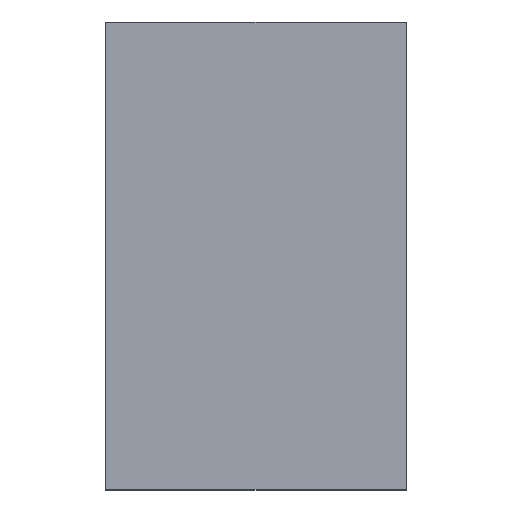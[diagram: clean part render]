
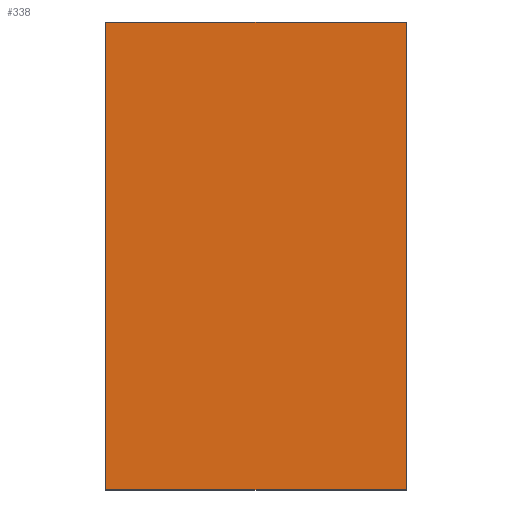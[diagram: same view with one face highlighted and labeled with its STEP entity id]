
A CAD part, top view. The second image highlights one B-rep face of the part: STEP entity #338.
In plain terms, the highlighted planar face has unit normal (0, 0, 1).
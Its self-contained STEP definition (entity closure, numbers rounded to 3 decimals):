
#21 = EDGE_CURVE('',#22,#24,#26,.T.);
#22 = VERTEX_POINT('',#23);
#23 = CARTESIAN_POINT('',(-36.5,84.,38.));
#24 = VERTEX_POINT('',#25);
#25 = CARTESIAN_POINT('',(-36.5,42.,38.));
#26 = SURFACE_CURVE('',#27,(#31,#43),.PCURVE_S1.);
#27 = LINE('',#28,#29);
#28 = CARTESIAN_POINT('',(-36.5,42.,38.));
#29 = VECTOR('',#30,1.);
#30 = DIRECTION('',(0.,-1.,0.));
#31 = PCURVE('',#32,#37);
#32 = PLANE('',#33);
#33 = AXIS2_PLACEMENT_3D('',#34,#35,#36);
#34 = CARTESIAN_POINT('',(-36.5,42.,35.));
#35 = DIRECTION('',(1.,0.,0.));
#36 = DIRECTION('',(0.,0.,1.));
#37 = DEFINITIONAL_REPRESENTATION('',(#38),#42);
#38 = LINE('',#39,#40);
#39 = CARTESIAN_POINT('',(3.,0.));
#40 = VECTOR('',#41,1.);
#41 = DIRECTION('',(0.,1.));
#42 = ( GEOMETRIC_REPRESENTATION_CONTEXT(2) 
PARAMETRIC_REPRESENTATION_CONTEXT() REPRESENTATION_CONTEXT('2D SPACE',''
  ) );
#43 = PCURVE('',#44,#49);
#44 = PLANE('',#45);
#45 = AXIS2_PLACEMENT_3D('',#46,#47,#48);
#46 = CARTESIAN_POINT('',(-36.5,42.,38.));
#47 = DIRECTION('',(0.,0.,1.));
#48 = DIRECTION('',(1.,0.,0.));
#49 = DEFINITIONAL_REPRESENTATION('',(#50),#54);
#50 = LINE('',#51,#52);
#51 = CARTESIAN_POINT('',(0.,0.));
#52 = VECTOR('',#53,1.);
#53 = DIRECTION('',(0.,-1.));
#54 = ( GEOMETRIC_REPRESENTATION_CONTEXT(2) 
PARAMETRIC_REPRESENTATION_CONTEXT() REPRESENTATION_CONTEXT('2D SPACE',''
  ) );
#72 = PLANE('',#73);
#73 = AXIS2_PLACEMENT_3D('',#74,#75,#76);
#74 = CARTESIAN_POINT('',(-36.5,84.,35.));
#75 = DIRECTION('',(0.,1.,0.));
#76 = DIRECTION('',(0.,0.,1.));
#126 = PLANE('',#127);
#127 = AXIS2_PLACEMENT_3D('',#128,#129,#130);
#128 = CARTESIAN_POINT('',(-36.5,42.,35.));
#129 = DIRECTION('',(0.,1.,0.));
#130 = DIRECTION('',(0.,0.,1.));
#144 = VERTEX_POINT('',#145);
#145 = CARTESIAN_POINT('',(-9.5,42.,38.));
#152 = PLANE('',#153);
#153 = AXIS2_PLACEMENT_3D('',#154,#155,#156);
#154 = CARTESIAN_POINT('',(-9.5,42.,35.));
#155 = DIRECTION('',(1.,0.,0.));
#156 = DIRECTION('',(0.,0.,1.));
#195 = VERTEX_POINT('',#196);
#196 = CARTESIAN_POINT('',(-9.5,84.,38.));
#217 = EDGE_CURVE('',#144,#195,#218,.T.);
#218 = SURFACE_CURVE('',#219,(#223,#230),.PCURVE_S1.);
#219 = LINE('',#220,#221);
#220 = CARTESIAN_POINT('',(-9.5,42.,38.));
#221 = VECTOR('',#222,1.);
#222 = DIRECTION('',(0.,1.,0.));
#223 = PCURVE('',#152,#224);
#224 = DEFINITIONAL_REPRESENTATION('',(#225),#229);
#225 = LINE('',#226,#227);
#226 = CARTESIAN_POINT('',(3.,0.));
#227 = VECTOR('',#228,1.);
#228 = DIRECTION('',(0.,-1.));
#229 = ( GEOMETRIC_REPRESENTATION_CONTEXT(2) 
PARAMETRIC_REPRESENTATION_CONTEXT() REPRESENTATION_CONTEXT('2D SPACE',''
  ) );
#230 = PCURVE('',#44,#231);
#231 = DEFINITIONAL_REPRESENTATION('',(#232),#236);
#232 = LINE('',#233,#234);
#233 = CARTESIAN_POINT('',(27.,0.));
#234 = VECTOR('',#235,1.);
#235 = DIRECTION('',(0.,1.));
#236 = ( GEOMETRIC_REPRESENTATION_CONTEXT(2) 
PARAMETRIC_REPRESENTATION_CONTEXT() REPRESENTATION_CONTEXT('2D SPACE',''
  ) );
#242 = EDGE_CURVE('',#24,#144,#243,.T.);
#243 = SURFACE_CURVE('',#244,(#248,#255),.PCURVE_S1.);
#244 = LINE('',#245,#246);
#245 = CARTESIAN_POINT('',(-36.5,42.,38.));
#246 = VECTOR('',#247,1.);
#247 = DIRECTION('',(1.,0.,0.));
#248 = PCURVE('',#126,#249);
#249 = DEFINITIONAL_REPRESENTATION('',(#250),#254);
#250 = LINE('',#251,#252);
#251 = CARTESIAN_POINT('',(3.,0.));
#252 = VECTOR('',#253,1.);
#253 = DIRECTION('',(0.,1.));
#254 = ( GEOMETRIC_REPRESENTATION_CONTEXT(2) 
PARAMETRIC_REPRESENTATION_CONTEXT() REPRESENTATION_CONTEXT('2D SPACE',''
  ) );
#255 = PCURVE('',#44,#256);
#256 = DEFINITIONAL_REPRESENTATION('',(#257),#261);
#257 = LINE('',#258,#259);
#258 = CARTESIAN_POINT('',(0.,0.));
#259 = VECTOR('',#260,1.);
#260 = DIRECTION('',(1.,0.));
#261 = ( GEOMETRIC_REPRESENTATION_CONTEXT(2) 
PARAMETRIC_REPRESENTATION_CONTEXT() REPRESENTATION_CONTEXT('2D SPACE',''
  ) );
#310 = EDGE_CURVE('',#22,#195,#311,.T.);
#311 = SURFACE_CURVE('',#312,(#316,#323),.PCURVE_S1.);
#312 = LINE('',#313,#314);
#313 = CARTESIAN_POINT('',(-36.5,84.,38.));
#314 = VECTOR('',#315,1.);
#315 = DIRECTION('',(1.,0.,0.));
#316 = PCURVE('',#72,#317);
#317 = DEFINITIONAL_REPRESENTATION('',(#318),#322);
#318 = LINE('',#319,#320);
#319 = CARTESIAN_POINT('',(3.,0.));
#320 = VECTOR('',#321,1.);
#321 = DIRECTION('',(0.,1.));
#322 = ( GEOMETRIC_REPRESENTATION_CONTEXT(2) 
PARAMETRIC_REPRESENTATION_CONTEXT() REPRESENTATION_CONTEXT('2D SPACE',''
  ) );
#323 = PCURVE('',#44,#324);
#324 = DEFINITIONAL_REPRESENTATION('',(#325),#329);
#325 = LINE('',#326,#327);
#326 = CARTESIAN_POINT('',(0.,42.));
#327 = VECTOR('',#328,1.);
#328 = DIRECTION('',(1.,0.));
#329 = ( GEOMETRIC_REPRESENTATION_CONTEXT(2) 
PARAMETRIC_REPRESENTATION_CONTEXT() REPRESENTATION_CONTEXT('2D SPACE',''
  ) );
#338 = ADVANCED_FACE('',(#339),#44,.T.);
#339 = FACE_BOUND('',#340,.T.);
#340 = EDGE_LOOP('',(#341,#342,#343,#344));
#341 = ORIENTED_EDGE('',*,*,#21,.T.);
#342 = ORIENTED_EDGE('',*,*,#242,.T.);
#343 = ORIENTED_EDGE('',*,*,#217,.T.);
#344 = ORIENTED_EDGE('',*,*,#310,.F.);
